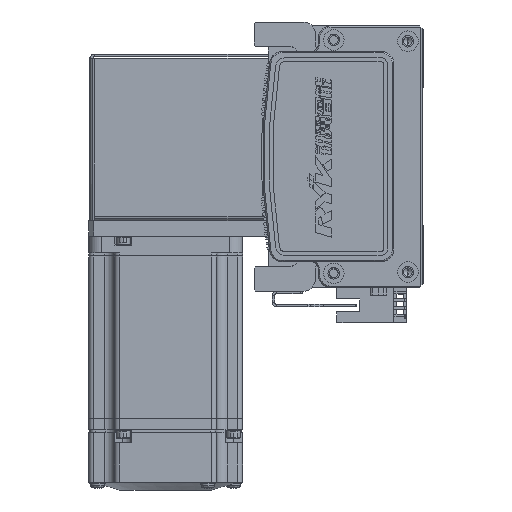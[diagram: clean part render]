
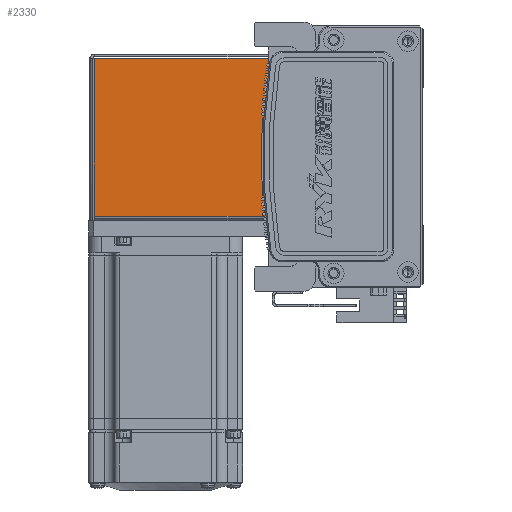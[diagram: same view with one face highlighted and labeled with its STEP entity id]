
A CAD part, left-side view. The second image highlights one B-rep face of the part: STEP entity #2330.
In plain terms, the highlighted planar face has unit normal (-1, 0, 0) as drawn and (0, 0, 1) by its records, which use the part's own axes.
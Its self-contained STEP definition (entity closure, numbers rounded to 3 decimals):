
#862 = LINE ( 'NONE', #56928, #37493 ) ;
#2330 = ADVANCED_FACE ( 'NONE', ( #21629 ), #63668, .F. ) ;
#3519 = CARTESIAN_POINT ( 'NONE',  ( 0., 0., 35. ) ) ;
#4437 = DIRECTION ( 'NONE',  ( -1., 0., 0. ) ) ;
#7626 = VECTOR ( 'NONE', #39197, 1000. ) ;
#8432 = CARTESIAN_POINT ( 'NONE',  ( -30.793, 0.737, 35. ) ) ;
#8471 = EDGE_CURVE ( 'NONE', #16379, #33426, #33272, .T. ) ;
#10901 = ORIENTED_EDGE ( 'NONE', *, *, #30640, .T. ) ;
#11134 = ORIENTED_EDGE ( 'NONE', *, *, #44544, .T. ) ;
#11308 = DIRECTION ( 'NONE',  ( -1., 0., 0. ) ) ;
#12233 = CARTESIAN_POINT ( 'NONE',  ( 0., 68.5, 35. ) ) ;
#13176 = LINE ( 'NONE', #18346, #7626 ) ;
#13656 = AXIS2_PLACEMENT_3D ( 'NONE', #3519, #33977, #64332 ) ;
#16379 = VERTEX_POINT ( 'NONE', #55575 ) ;
#16442 = DIRECTION ( 'NONE',  ( 0., 1., 0. ) ) ;
#18346 = CARTESIAN_POINT ( 'NONE',  ( 30.763, 0.737, 35. ) ) ;
#21629 = FACE_OUTER_BOUND ( 'NONE', #54568, .T. ) ;
#30640 = EDGE_CURVE ( 'NONE', #63564, #45234, #34026, .T. ) ;
#30711 = ORIENTED_EDGE ( 'NONE', *, *, #48118, .F. ) ;
#30863 = VECTOR ( 'NONE', #4437, 1000. ) ;
#33272 = LINE ( 'NONE', #45349, #30863 ) ;
#33426 = VERTEX_POINT ( 'NONE', #8432 ) ;
#33977 = DIRECTION ( 'NONE',  ( 0., 0., -1. ) ) ;
#34026 = LINE ( 'NONE', #12233, #38793 ) ;
#34450 = CARTESIAN_POINT ( 'NONE',  ( 30.763, 68.5, 35. ) ) ;
#37493 = VECTOR ( 'NONE', #16442, 1000. ) ;
#38793 = VECTOR ( 'NONE', #11308, 1000. ) ;
#39197 = DIRECTION ( 'NONE',  ( 0., 1., 0. ) ) ;
#41001 = ORIENTED_EDGE ( 'NONE', *, *, #8471, .F. ) ;
#44544 = EDGE_CURVE ( 'NONE', #16379, #63564, #13176, .T. ) ;
#45234 = VERTEX_POINT ( 'NONE', #63638 ) ;
#45349 = CARTESIAN_POINT ( 'NONE',  ( -32.5, 0.737, 35. ) ) ;
#48118 = EDGE_CURVE ( 'NONE', #33426, #45234, #862, .T. ) ;
#54568 = EDGE_LOOP ( 'NONE', ( #11134, #10901, #30711, #41001 ) ) ;
#55575 = CARTESIAN_POINT ( 'NONE',  ( 30.763, 0.737, 35. ) ) ;
#56928 = CARTESIAN_POINT ( 'NONE',  ( -30.793, 0., 35. ) ) ;
#63564 = VERTEX_POINT ( 'NONE', #34450 ) ;
#63638 = CARTESIAN_POINT ( 'NONE',  ( -30.793, 68.5, 35. ) ) ;
#63668 = PLANE ( 'NONE',  #13656 ) ;
#64332 = DIRECTION ( 'NONE',  ( -1., 0., 0. ) ) ;
